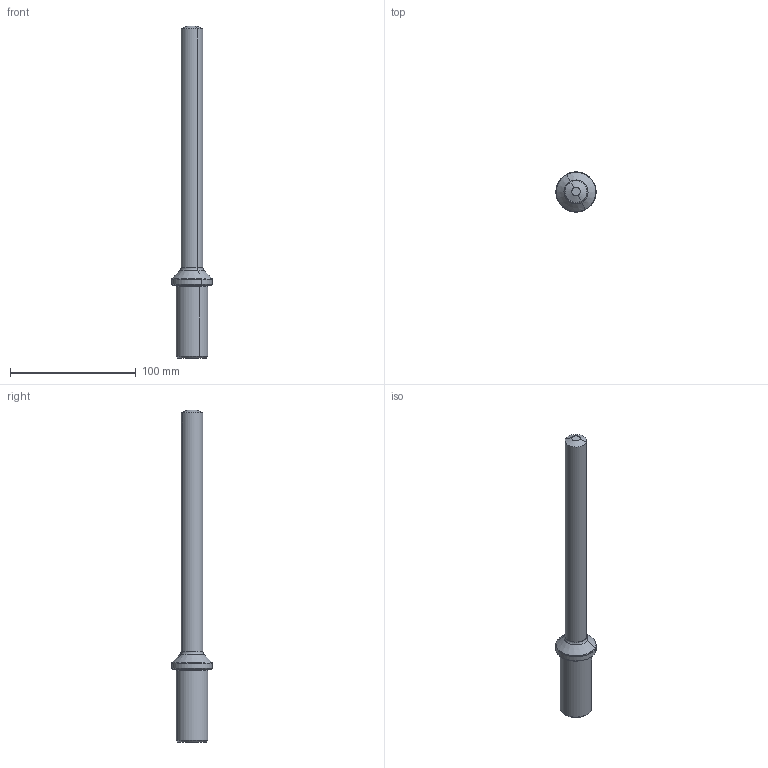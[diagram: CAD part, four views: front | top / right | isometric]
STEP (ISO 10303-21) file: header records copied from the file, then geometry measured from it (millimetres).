
FILE_DESCRIPTION(/* description */ (''),/* implementation_level */ '2;1');
FILE_NAME(/* name */ 'Z10SDSF100I.stp',/* time_stamp */ '2022-06-24T10:30:42+09:00',/* author */ (''),/* organization */ (''),/* preprocessor_version */ 'ST-DEVELOPER v16.7',/* originating_system */ 'SIEMENS PLM Software NX 12.0',/* authorisation */ '');
FILE_SCHEMA (('AUTOMOTIVE_DESIGN { 1 0 10303 214 3 1 1 1 }'));
Length unit declared in the file: millimetre
Products named in the file (1): 12012974095Bycha
Bounding box: 31.99 x 31.99 x 263.5 mm (x, y, z)
Surface area: 17279.2 mm2 (no closed solid volume)
Topology: 0 solids, 32 shells, 32 faces, 124 edges, 124 vertices
Faces by surface type: cone 12, cylinder 8, torus 8, plane 4
Entity records: 1868 total; most frequent: CARTESIAN_POINT 655, DIRECTION 166, ORIENTED_EDGE 124, VERTEX_POINT 124, EDGE_CURVE 124, AXIS2_PLACEMENT_3D 75, B_SPLINE_CURVE_WITH_KNOTS 68, CIRCLE 40
